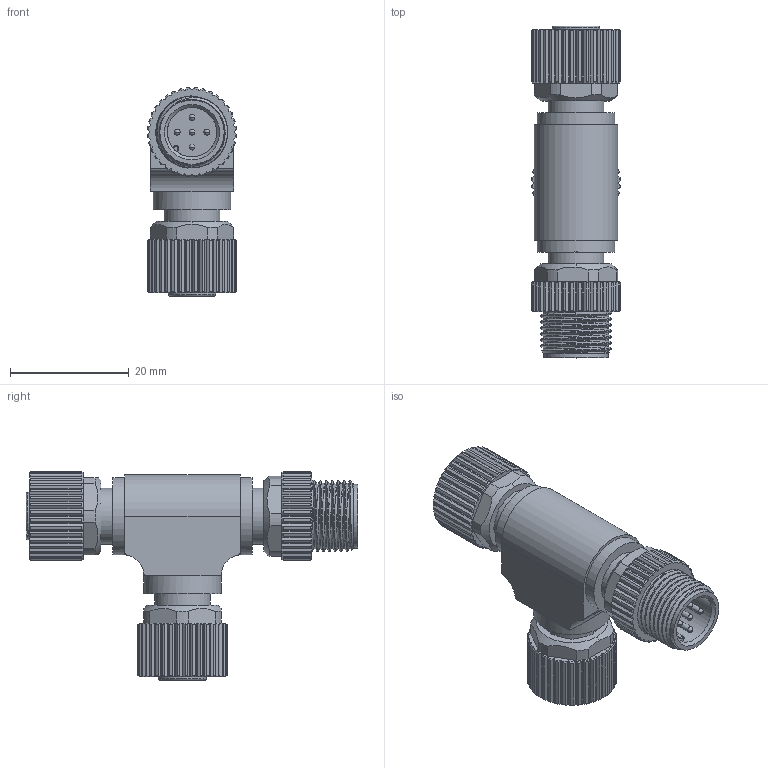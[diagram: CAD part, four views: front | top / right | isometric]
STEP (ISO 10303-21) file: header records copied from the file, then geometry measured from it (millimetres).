
FILE_DESCRIPTION(/* description */ (''),/* implementation_level */ '2;1');
FILE_NAME(/* name */ 'M12-M12-TB_stp.stp',/* time_stamp */ '2021-11-06T10:39:43+08:00',/* author */ (''),/* organization */ (''),/* preprocessor_version */ 'ST-DEVELOPER v16.7',/* originating_system */ 'SIEMENS PLM Software NX 12.0',/* authorisation */ '');
FILE_SCHEMA (('AP203_CONFIGURATION_CONTROLLED_3D_DESIGN_OF_MECHANICAL_PARTS_AND_ASSEMBLIES_MIM_LF { 1 0 10303 403 2 1 2}'));
Length unit declared in the file: millimetre
Products named in the file (1): Admi321C0C754q1t
Bounding box: 14.98 x 55.8 x 35.09 mm (x, y, z)
Volume: 9851.7 mm3; surface area: 10719.1 mm2
Topology: 9 solids, 36 shells, 1494 faces, 4215 edges, 2781 vertices
Faces by surface type: plane 598, cylinder 489, cone 321, bspline 34, extrusion 23, torus 19, sphere 10
Full cylindrical faces by diameter (mm): 1.2 x10, 2 x10, 2.1 x35, 9.4 x3, 9.5 x1, 10.8 x3, 13 x3
Entity records: 52683 total; most frequent: CARTESIAN_POINT 14652, ORIENTED_EDGE 8106, DIRECTION 7658, EDGE_CURVE 4057, AXIS2_PLACEMENT_3D 2885, VERTEX_POINT 2740, VECTOR 1888, LINE 1865
